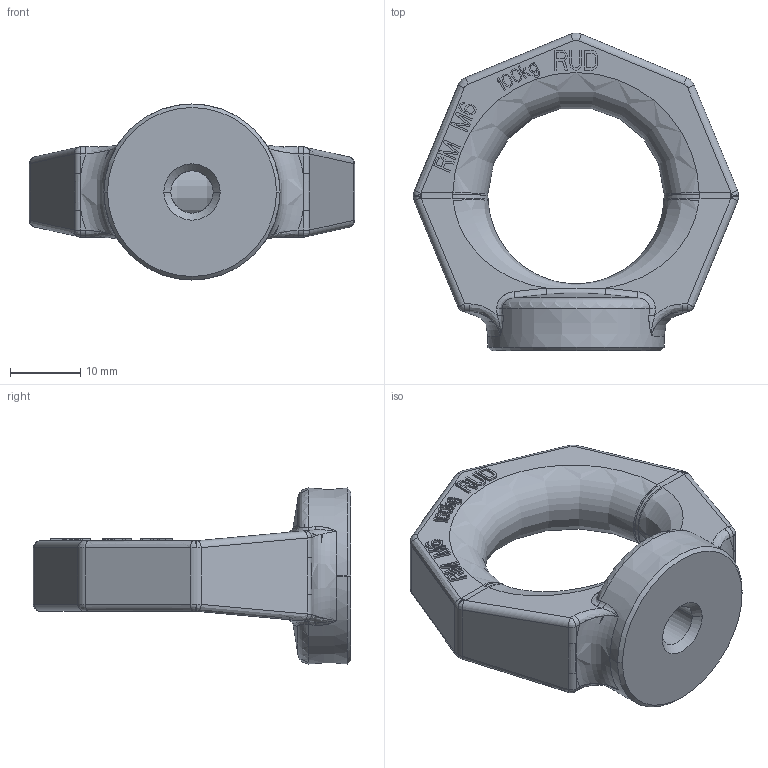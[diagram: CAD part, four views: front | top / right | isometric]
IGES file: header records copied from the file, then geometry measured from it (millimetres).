
Start section:  PTC IGES file: C:\Aktuell-Internet\CAD-Daten\3rm-m6.igs
Global section: file name: C:\Aktuell-Internet\CAD-Daten\3rm-m6.igs; native system: Pro/ENGINEER by Parametric Technology Corporation; preprocessor: 2001400; author: jakubetz; organization: Unknown; date: 040211.131431; units: millimetre
Bounding box: 46.21 x 45.1 x 25 mm (x, y, z)
Surface area: 4771.7 mm2 (no closed solid volume)
Topology: 0 solids, 0 shells, 511 faces, 2764 edges, 2764 vertices
Faces by surface type: bspline 452, revolution 59
